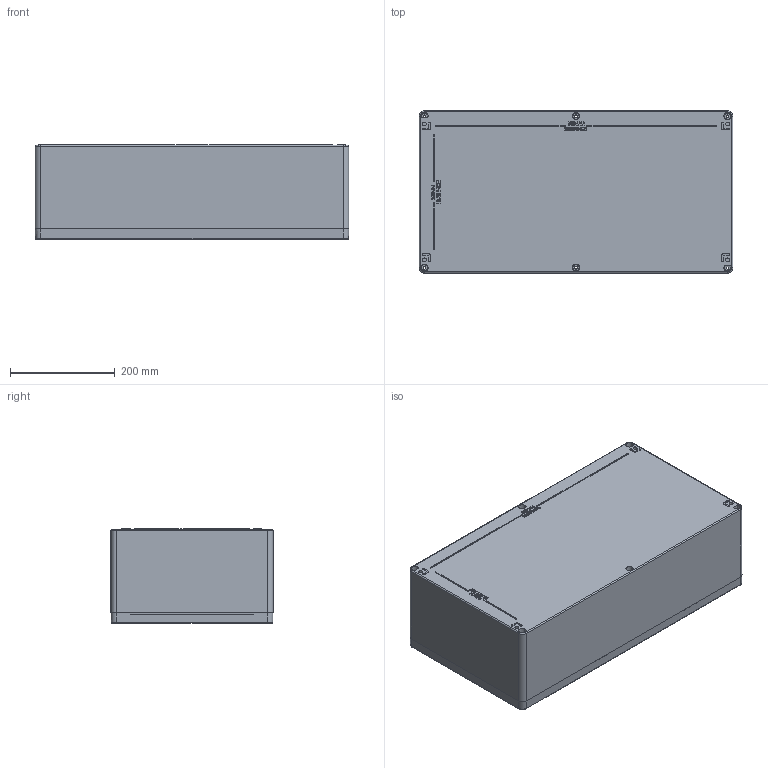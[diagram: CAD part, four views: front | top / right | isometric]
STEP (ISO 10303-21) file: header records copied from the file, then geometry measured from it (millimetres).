
FILE_DESCRIPTION (( 'STEP AP203' ), '1' );
FILE_NAME ('ALU ASSY 600310180.STEP', '2024-08-27T09:57:08', ( '' ), ( '' ), 'SwSTEP 2.0', 'SolidWorks 2018', '' );
FILE_SCHEMA (( 'CONFIG_CONTROL_DESIGN' ));
Length unit declared in the file: millimetre
Products named in the file (3): ALU LID 600310180; ALU BASE 600310180; ALU ASSY 600310180
Assembly tree (2 placements, depth 2):
  ALU ASSY 600310180
    ALU BASE 600310180
    ALU LID 600310180
Bounding box: 600 x 310 x 181 mm (x, y, z)
Volume: 4337929.7 mm3; surface area: 1440271.3 mm2
Topology: 2 solids, 2 shells, 1031 faces, 2596 edges, 1660 vertices
Faces by surface type: plane 434, cylinder 191, bspline 189, cone 139, torus 78
Entity records: 41784 total; most frequent: CARTESIAN_POINT 17541, ORIENTED_EDGE 5156, DIRECTION 4609, EDGE_CURVE 2578, VERTEX_POINT 1660, AXIS2_PLACEMENT_3D 1588, VECTOR 1433, LINE 1433
